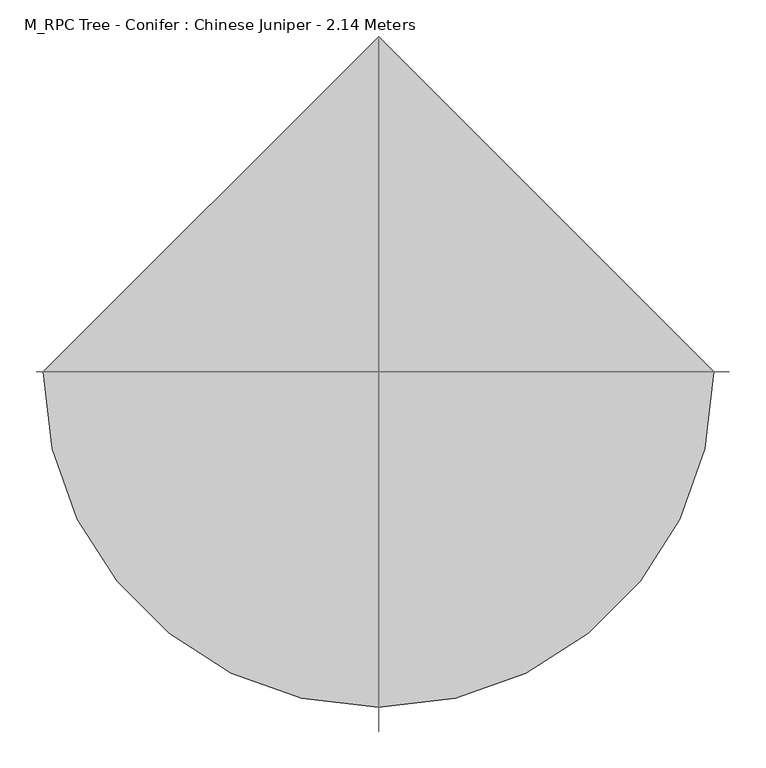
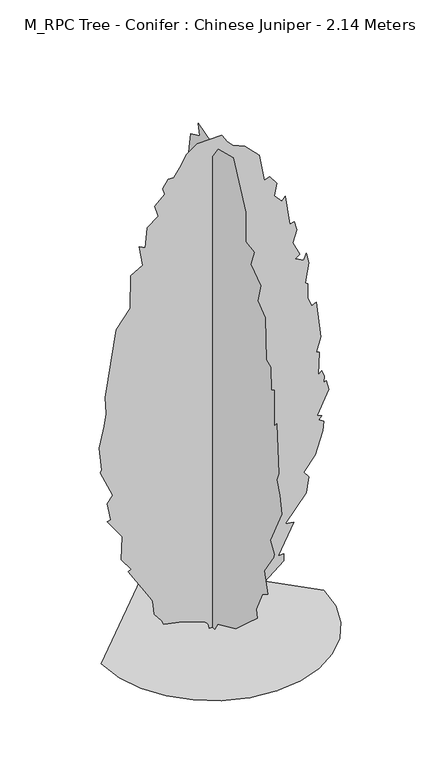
"""IFC4 building model written with IfcOpenShell, lengths in millimetres: geographic element geometry, M_RPC Tree - Conifer : Chinese Juniper - 2.14 Meters."""

import ifcopenshell
import ifcopenshell.guid

model = None  # the IFC model being written
_history = None  # IfcOwnerHistory: only IFC2X3 demands one
_inside = {}  # id of a spatial element -> (the spatial element, [elements in it])
_under = {}  # id of a project, library or spatial element -> (it, [spatial elements below it])
_declared = {}  # id of a project -> (the project, [libraries it declares])
_typed = {}  # id of a type object -> (the type object, [elements of that type])
_made_of = {}  # id of a material, layer set ... -> (it, [elements and type objects made of it])


def new_model(schema):
    """Start an empty IFC model of exactly this schema.

    Asked for "IFC4X3", IfcOpenShell would pick the latest addendum, in which some entities
    have other attributes; the version numbers below select the first issue.
    IFC2X3 requires an IfcOwnerHistory on every rooted entity: one is made here for all.
    """
    global model, _history
    if schema == "IFC4X3":
        model = ifcopenshell.file(schema_version=(4, 3, 0, 0))
    else:
        model = ifcopenshell.file(schema=schema)
    _inside.clear()
    _under.clear()
    _declared.clear()
    _typed.clear()
    _made_of.clear()
    _history = None
    if model.schema == "IFC2X3":
        org = make("IfcOrganization", Name="unknown")
        user = make(
            "IfcPersonAndOrganization",
            ThePerson=make("IfcPerson", FamilyName="unknown"),
            TheOrganization=org,
        )
        app = make(
            "IfcApplication",
            ApplicationDeveloper=org,
            Version="unknown",
            ApplicationFullName="unknown",
            ApplicationIdentifier="unknown",
        )
        _history = make(
            "IfcOwnerHistory",
            OwningUser=user,
            OwningApplication=app,
            ChangeAction="ADDED",
            CreationDate=0,
        )
    return model


def make(cls, **values):
    """One entity of the class cls with the attributes given. An attribute that is None is left unset."""
    return model.create_entity(
        cls, **{name: value for name, value in values.items() if value is not None}
    )


def rooted(cls, **values):
    """An entity with a GlobalId (a new one), such as an element, a storey or a relation."""
    return make(cls, GlobalId=ifcopenshell.guid.new(), OwnerHistory=_history, **values)


def si_unit(unit_type, name, prefix=None):
    """IfcSIUnit, for example si_unit("LENGTHUNIT", "METRE", prefix="MILLI")."""
    return make("IfcSIUnit", UnitType=unit_type, Prefix=prefix, Name=name)


def assignment(units):
    """IfcUnitAssignment: the units of a project."""
    return None if units is None else make("IfcUnitAssignment", Units=units)


def point(xyz):
    """IfcCartesianPoint."""
    return None if xyz is None else make("IfcCartesianPoint", Coordinates=xyz)


def direction(xyz):
    """IfcDirection."""
    return None if xyz is None else make("IfcDirection", DirectionRatios=xyz)


def frame(location, z_axis=None, x_axis=None):
    """IfcAxis2Placement3D, a coordinate frame: its origin and axes. An axis left out is left unset."""
    return make(
        "IfcAxis2Placement3D",
        Location=point(location),
        Axis=direction(z_axis),
        RefDirection=direction(x_axis),
    )


def origin():
    """The frame at (0, 0, 0) with its axes left unset."""
    return frame((0.0, 0.0, 0.0))


def place(relative_to, where):
    """IfcLocalPlacement: puts the frame where relative to a parent placement (None: the world)."""
    return make(
        "IfcLocalPlacement", PlacementRelTo=relative_to, RelativePlacement=where
    )


def context(
    kind, dimensions, precision=None, world=None, true_north=None, identifier=None
):
    """IfcGeometricRepresentationContext, for example the 3D "Model" context."""
    return make(
        "IfcGeometricRepresentationContext",
        ContextIdentifier=identifier,
        ContextType=kind,
        CoordinateSpaceDimension=dimensions,
        Precision=precision,
        WorldCoordinateSystem=world,
        TrueNorth=true_north,
    )


def project(units=None, contexts=None):
    """IfcProject with its units and contexts."""
    return rooted(
        "IfcProject",
        Name="project",
        RepresentationContexts=contexts,
        UnitsInContext=assignment(units),
    )


def spatial(cls, under=None, at=None, **own):
    """A site, building, storey or space (cls), placed at a placement, below another one or the project."""
    s = rooted(cls, ObjectPlacement=at, **own)
    if under is not None:
        _under.setdefault(under.id(), (under, []))[1].append(s)
    return s


def point_list(points):
    """IfcCartesianPointList2D or 3D."""
    cls = (
        "IfcCartesianPointList2D" if len(points[0]) == 2 else "IfcCartesianPointList3D"
    )
    return make(cls, CoordList=points)


def triangles(points, corners, closed=None, point_numbers=None):
    """IfcTriangulatedFaceSet: each triangle names its three corners, points numbered from 1."""
    return make(
        "IfcTriangulatedFaceSet",
        Coordinates=point_list(points),
        Closed=closed,
        CoordIndex=corners,
        PnIndex=point_numbers,
    )


def shape(context_of_items, identifier, shape_type, items):
    """IfcShapeRepresentation: the items that make up one representation, for example the "Body"."""
    return make(
        "IfcShapeRepresentation",
        ContextOfItems=context_of_items,
        RepresentationIdentifier=identifier,
        RepresentationType=shape_type,
        Items=items,
    )


def source(mapping_origin, context_of_items, identifier, shape_type, items):
    """IfcRepresentationMap: a shape defined once, which mapped items show again and again."""
    return make(
        "IfcRepresentationMap",
        MappingOrigin=mapping_origin,
        MappedRepresentation=shape(context_of_items, identifier, shape_type, items),
    )


def transform(
    local_origin,
    x_axis=None,
    y_axis=None,
    z_axis=None,
    scale=None,
    scale2=None,
    scale3=None,
    uniform=True,
):
    """IfcCartesianTransformationOperator3D, or its non-uniform kind. x_axis, y_axis, z_axis: its Axis1, 2, 3."""
    if uniform:
        return make(
            "IfcCartesianTransformationOperator3D",
            Axis1=direction(x_axis),
            Axis2=direction(y_axis),
            LocalOrigin=point(local_origin),
            Scale=scale,
            Axis3=direction(z_axis),
        )
    return make(
        "IfcCartesianTransformationOperator3DnonUniform",
        Axis1=direction(x_axis),
        Axis2=direction(y_axis),
        LocalOrigin=point(local_origin),
        Scale=scale,
        Axis3=direction(z_axis),
        Scale2=scale2,
        Scale3=scale3,
    )


def mapped(mapping_source, mapping_target):
    """IfcMappedItem: shows the shape of a source again, moved by a transform."""
    return make(
        "IfcMappedItem", MappingSource=mapping_source, MappingTarget=mapping_target
    )


def made_of(thing, what):
    """Note that an element or type object is made of a material, layer set ...; save() writes the relation."""
    if what is not None:
        _made_of.setdefault(what.id(), (what, []))[1].append(thing)
    return thing


def element(
    cls,
    number,
    at=None,
    inside=None,
    cuts=None,
    type_object=None,
    material=None,
    context=None,
    identifier="Body",
    shape_type=None,
    held_by="IfcProductDefinitionShape",
    body=None,
    shapes=None,
    **own,
):
    """One element of the class cls, such as IfcWall. Its Tag is "e" and its number.

    at: its placement. inside: the storey or other place that contains it. cuts: it is an
    opening in that element (IfcRelVoidsElement). A single representation is given by context,
    identifier, shape_type and body (its items); several are given by shapes. held_by: the class
    of the entity that holds the representations. save() writes the other relations.
    """
    e = rooted(cls, Tag="e%d" % number, ObjectPlacement=at, **own)
    if body is not None:
        shapes = [shape(context, identifier, shape_type, body)]
    if shapes is not None:
        e.Representation = make(held_by, Representations=shapes)
    if inside is not None:
        _inside.setdefault(inside.id(), (inside, []))[1].append(e)
    if cuts is not None:
        rooted(
            "IfcRelVoidsElement", RelatingBuildingElement=cuts, RelatedOpeningElement=e
        )
    if type_object is not None:
        _typed.setdefault(type_object.id(), (type_object, []))[1].append(e)
    return made_of(e, material)


def aggregate(whole, parts):
    """IfcRelAggregates: a whole, such as a stair, and the parts it consists of."""
    return rooted("IfcRelAggregates", RelatingObject=whole, RelatedObjects=parts)


def save(model, path):
    """Write the relations noted so far, then the file.

    IfcRelAggregates (storeys below a building ...), IfcRelContainedInSpatialStructure (elements
    in a storey), IfcRelDefinesByType, IfcRelAssociatesMaterial and IfcRelDeclares: one each for
    every whole, place, type object, material and project.
    """
    for whole, parts in _under.values():
        aggregate(whole, parts)
    for where, things in _inside.values():
        rooted(
            "IfcRelContainedInSpatialStructure",
            RelatedElements=things,
            RelatingStructure=where,
        )
    for kind, things in _typed.values():
        rooted("IfcRelDefinesByType", RelatedObjects=things, RelatingType=kind)
    for what, things in _made_of.values():
        rooted("IfcRelAssociatesMaterial", RelatedObjects=things, RelatingMaterial=what)
    for by, libraries in _declared.values():
        rooted("IfcRelDeclares", RelatingContext=by, RelatedDefinitions=libraries)
    model.write(path)


def m_rpc_tree_conifer_chinese_juniper_2_14_meters_bd42ecf2(model_context):
    return source(origin(), model_context, "Body", "Tessellation", [
        triangles([(-14.5617838, 6e-07, 1.3e-06), (-18.0617143, -3e-07, 17.993509), (-27.5052093, -6e-07, 30.4826143), (-123.9397732, 1.5e-06, 65.9730988), (-202.281621, 3.9e-06, 82.5968752), (-209.7904831, 3.1e-06, 101.3688126), (-240.0448319, 2.2e-06, 140.0978439), (-247.3348666, -1e-06, 198.983185), (-258.5989501, -1.9e-06, 221.5095534), (-348.7034248, -6.5e-06, 364.1756636), (-337.0454518, -7.4e-06, 371.1816313), (-376.9132945, -9e-06, 427.0714974), (-372.8727345, -1.51e-05, 526.2022199), (-435.0552398, -1.75e-05, 611.9680967), (-420.0369704, -1.83e-05, 615.720702), (-434.4718451, -2.22e-05, 691.5890362), (-412.526564, -2.49e-05, 720.8435005), (-465.0891987, -2.96e-05, 837.2318178), (-457.5813721, -3.03e-05, 844.7396444), (-468.8444201, -3.59e-05, 946.1072216), (-448.4684835, -4.21e-05, 1034.5481169), (-438.8078814, -4.55e-05, 1085.0217075), (-442.5631027, -4.96e-05, 1156.3552168), (-397.5108381, -6.83e-05, 1437.9343231), (-341.1955619, -7.53e-05, 1513.0230537), (-338.1511256, -8.37e-05, 1653.1706039), (-288.6329272, -8.76e-05, 1681.9714622), (-303.6511966, -9.21e-05, 1768.3208427), (-278.0195126, -9.24e-05, 1753.6159264), (-269.8620163, -9.78e-05, 1839.6542793), (-224.8079895, -0.0001018, 1873.4434959), (-239.8257319, -0.0001041, 1922.2509819), (-198.5271808, -0.0001081, 1959.7953472), (-206.036043, -0.0001094, 1986.0767372), (-183.5096745, -0.0001124, 2019.8658085), (-160.983306, -0.0001133, 2019.8658085), (-135.137618, -0.0001165, 2053.4232079), (-109.226209, -0.0001205, 2102.1337521), (-62.7368547, -0.0001244, 2133.6148247), (37.2251579, -0.0001289, 2135.1866764), (60.5262656, -0.0001277, 2098.707217), (83.0526431, -0.0001274, 2076.1811211), (133.1351694, -0.0001283, 2054.9696251), (191.9300726, -0.0001272, 1993.5845638), (214.4564411, -0.0001213, 1877.19879), (236.9828095, -0.0001227, 1884.7066166), (264.456932, -0.0001215, 1845.4017483), (255.7542473, -0.0001181, 1794.6020874), (285.7907679, -0.0001174, 1760.8128708), (300.8064756, -0.000119, 1775.8311401), (319.5799481, -0.0001122, 1648.1797749), (338.3508954, -0.0001132, 1651.9349236), (348.5592113, -0.0001115, 1614.7421356), (331.7805479, -0.0001077, 1563.7055706), (360.8769914, -0.0001053, 1501.7599331), (341.2042096, -0.0001037, 1489.9644321), (375.8952607, -0.0001041, 1471.7235397), (387.1583087, -0.0001062, 1498.0047844), (398.421393, -0.000104, 1452.9525925), (383.4056671, -9.84e-05, 1370.3558899), (394.2458121, -9.84e-05, 1361.4366669), (392.7401628, -9.47e-05, 1300.4515812), (409.684441, -9.31e-05, 1261.4779427), (428.4578954, -9.44e-05, 1268.9859146), (447.2288426, -8.58e-05, 1111.3030249), (428.4578954, -8.14e-05, 1051.2324909), (440.1489696, -8.17e-05, 1047.2607857), (435.9657583, -7.57e-05, 949.862443), (450.9840277, -7.7e-05, 961.125491), (462.2470757, -7.59e-05, 934.8441736), (458.4918906, -7.42e-05, 908.5653997), (469.7549386, -7.49e-05, 912.318005), (481.0180229, -7.29e-05, 871.0210344), (432.2105733, -6.5e-05, 773.4061352), (450.9840277, -6.54e-05, 765.8982359), (439.7209797, -6.4e-05, 750.8799665), (458.4918906, -6.41e-05, 739.6169186), (454.5430764, -6.15e-05, 699.152964), (424.7027103, -5.46e-05, 604.4576903), (375.8952607, -4.89e-05, 544.3871564), (398.421393, -4.83e-05, 518.1058391), (386.1086998, -4.38e-05, 452.5197261), (300.8064756, -3.37e-05, 345.4047526), (334.5982175, -3.5e-05, 341.6495313), (270.7724985, -2.48e-05, 217.7551314), (293.2986308, -2.58e-05, 217.7551314), (293.2986308, -2.4e-05, 187.7198645), (128.1048805, -8.7e-06, 52.5616264), (128.1048805, -9.8e-06, 71.3335638), (15.4734162, -7e-07, 0.0), (0.1966721, 13.830533, 0.0001304), (0.1966737, 34.5845487, 14.3392183), (0.1966762, 77.6552437, 30.0355054), (0.1966783, 179.0240471, 67.5793779), (0.1966827, 231.5856826, 116.3865641), (0.1966819, 209.0593141, 120.1410043), (0.1966905, 289.4104415, 235.9622505), (0.1966919, 265.3761346, 292.8420998), (0.1966951, 332.9544951, 390.4569809), (0.1966967, 325.4466322, 435.5092092), (0.1967015, 374.2515384, 495.5797431), (0.1967053, 390.6607839, 567.4279012), (0.1967042, 381.7619448, 642.0020193), (0.1967108, 441.8324424, 732.1065485), (0.1967149, 445.585084, 822.2135485), (0.1967171, 423.899707, 895.9520708), (0.1967197, 456.8481683, 1013.6881256), (0.1967202, 426.814173, 1054.9851688), (0.1967238, 389.2698077, 1175.1261641), (0.1967245, 415.551125, 1257.722794), (0.1967285, 385.5145864, 1377.8638618), (0.1967299, 347.9727645, 1449.1972984), (0.1967317, 329.1992738, 1599.374905), (0.1967302, 306.6731778, 1588.1117844), (0.1967361, 306.6731778, 1723.2685055), (0.1967346, 261.6209314, 1734.5316261), (0.196733, 237.7863579, 1814.730946), (0.1967353, 224.0768023, 1880.9539387), (0.1967353, 179.0240471, 1926.0061306), (0.1967403, 156.4976787, 2061.1654678), (0.1967348, 92.6727409, 2091.1993904), (0.1967373, 102.3659537, 2139.5278358), (0.196732, 11.3827979, 2110.5232109), (0.196733, 6.3216566, 2046.1471985), (0.1967299, -38.7310661, 2109.9728085), (0.1967264, -147.6085047, 2140.0068764), (0.1967184, -237.7142511, 1956.0401985), (0.1967129, -237.7142511, 1828.391304), (0.1967098, -297.0940932, 1817.8211643), (0.1967079, -271.503177, 1749.5498955), (0.1967066, -343.871089, 1700.1488411), (0.1967041, -324.0658298, 1621.901001), (0.1967, -376.6259211, 1580.601487), (0.1966958, -384.1363275, 1400.3899578), (0.1966939, -414.789362, 1387.3129944), (0.1966894, -417.9255077, 1287.7593327), (0.1966891, -440.45164, 1302.7749859), (0.1966862, -440.45164, 1145.0921688), (0.1966824, -459.222551, 1167.6183374), (0.1966765, -474.2408203, 957.372813), (0.1966757, -457.938545, 921.6117691), (0.1966723, -481.7511904, 867.2658131), (0.1966725, -493.0142747, 792.1770098), (0.1966689, -414.1702864, 630.7389713), (0.1966658, -440.45164, 585.6867431), (0.1966692, -438.2300823, 569.7819363), (0.1966679, -369.1180581, 469.3009692), (0.1966629, -395.3993754, 382.9491179), (0.1966636, -354.0997888, 356.6678006), (0.1966655, -312.8027455, 266.5633259), (0.1966637, -320.3106085, 232.7728739), (0.196664, -245.2228771, 165.1937503), (0.1966643, -166.380433, 93.8601866), (0.1966675, -34.9761195, 33.789689), (0.1966708, -16.204667, 0.0001286), (-459.3417661, 0.0, 0.0001497), (-447.1921443, -105.2957258, 0.0001428), (-412.5928027, -201.993212, 0.0001356), (-358.313049, -287.3213975, 0.0001281), (-287.1247344, -358.5097303, 0.0001208), (-201.7965488, -412.789484, 0.0001138), (-105.0990536, -447.3888256, 0.0001075), (0.1966917, -459.5384474, 0.0001022), (105.4923981, -447.3888256, 9.83e-05), (202.1898751, -412.789484, 9.61e-05), (287.5180607, -358.5097303, 9.56e-05), (358.7064116, -287.3213975, 9.68e-05), (412.9861653, -201.9929576, 9.95e-05), (447.5855069, -105.2957258, 0.0001037), (459.7351287, 4.02e-05, 0.0001095), (0.1966111, 459.5384474, 0.000157)], [[57, 58, 59], [27, 28, 29], [87, 88, 89], [49, 50, 51], [13, 14, 15], [83, 84, 85], [74, 75, 76], [63, 64, 65], [68, 69, 70], [71, 72, 73], [9, 10, 11], [85, 86, 87], [85, 87, 89], [51, 52, 53], [54, 55, 56], [90, 1, 2], [66, 67, 68], [45, 46, 47], [17, 18, 19], [68, 70, 71], [45, 47, 48], [31, 32, 33], [76, 77, 78], [89, 90, 2], [89, 2, 3], [57, 59, 60], [51, 53, 54], [25, 26, 27], [39, 40, 41], [56, 57, 60], [71, 73, 74], [34, 35, 36], [33, 34, 36], [4, 5, 6], [60, 61, 62], [80, 81, 82], [38, 39, 41], [37, 38, 41], [37, 41, 42], [29, 30, 31], [15, 16, 17], [36, 37, 42], [33, 36, 42], [31, 33, 42], [31, 42, 43], [31, 43, 44], [31, 44, 45], [29, 31, 45], [29, 45, 48], [27, 29, 48], [25, 27, 48], [25, 48, 49], [25, 49, 51], [25, 51, 54], [25, 54, 56], [25, 56, 60], [25, 60, 62], [24, 25, 62], [23, 24, 62], [22, 23, 62], [22, 62, 63], [22, 63, 65], [22, 65, 66], [22, 66, 68], [21, 22, 68], [20, 21, 68], [19, 20, 68], [17, 19, 68], [17, 68, 71], [17, 71, 74], [15, 17, 74], [13, 15, 74], [13, 74, 76], [13, 76, 78], [13, 78, 79], [13, 79, 80], [12, 13, 80], [11, 12, 80], [9, 11, 80], [9, 80, 82], [9, 82, 83], [9, 83, 85], [9, 85, 89], [9, 89, 3], [9, 3, 4], [8, 9, 4], [8, 4, 6], [7, 8, 6], [138, 139, 140], [94, 95, 96], [136, 137, 138], [121, 122, 123], [112, 113, 114], [128, 129, 130], [121, 123, 124], [125, 126, 127], [124, 125, 127], [114, 115, 116], [147, 148, 149], [130, 131, 132], [124, 127, 128], [134, 135, 136], [154, 155, 91], [154, 91, 92], [150, 151, 152], [96, 97, 98], [119, 120, 121], [119, 121, 124], [119, 124, 128], [118, 119, 128], [117, 118, 128], [116, 117, 128], [116, 128, 130], [114, 116, 130], [114, 130, 132], [112, 114, 132], [112, 132, 133], [112, 133, 134], [112, 134, 136], [111, 112, 136], [110, 111, 136], [109, 110, 136], [109, 136, 138], [109, 138, 140], [109, 140, 141], [108, 109, 141], [107, 108, 141], [106, 107, 141], [105, 106, 141], [104, 105, 141], [103, 104, 141], [103, 141, 142], [103, 142, 143], [103, 143, 144], [102, 103, 144], [101, 102, 144], [100, 101, 144], [100, 144, 145], [100, 145, 146], [100, 146, 147], [100, 147, 149], [100, 149, 150], [100, 150, 152], [100, 152, 153], [100, 153, 154], [99, 100, 154], [98, 99, 154], [96, 98, 154], [96, 154, 92], [96, 92, 93], [96, 93, 94], [170, 171, 156], [169, 170, 156], [169, 156, 157], [168, 169, 157], [168, 157, 158], [168, 158, 159], [167, 168, 159], [166, 167, 159], [166, 159, 160], [166, 160, 161], [166, 161, 162], [166, 162, 163], [166, 163, 164], [166, 164, 165]], closed=False),
    ])


if __name__ == "__main__":
    model = new_model("IFC4")
    model_context = context("Model", 3, world=origin())
    ifc_project = project(units=[si_unit("LENGTHUNIT", "METRE", prefix="MILLI")], contexts=[model_context])
    site = spatial("IfcSite", under=ifc_project)
    building = spatial("IfcBuilding", under=site)
    placement = place(None, origin())
    m_rpc_tree_conifer_chinese_juniper_2_14_meters_shape = m_rpc_tree_conifer_chinese_juniper_2_14_meters_bd42ecf2(model_context)
    element("IfcGeographicElement", 1, ObjectType="M_RPC Tree - Conifer : Chinese Juniper - 2.14 Meters", at=placement, inside=building, context=model_context, shape_type="MappedRepresentation", body=[
        mapped(m_rpc_tree_conifer_chinese_juniper_2_14_meters_shape, transform((0.0, 0.0, 0.0), x_axis=(1.0, 0.0, 0.0), y_axis=(0.0, 1.0, 0.0), z_axis=(0.0, 0.0, 1.0))),
    ])
    save(model, "model.ifc")
